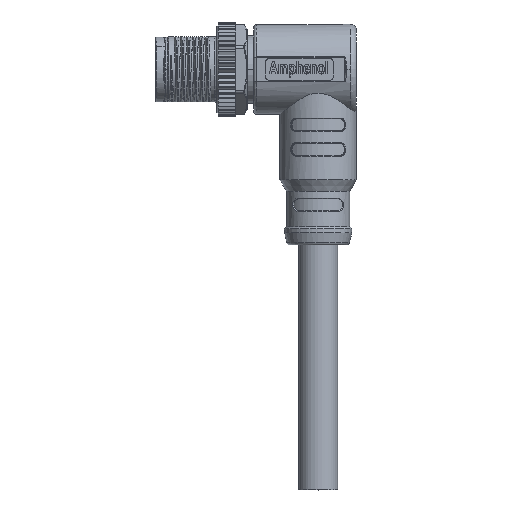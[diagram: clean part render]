
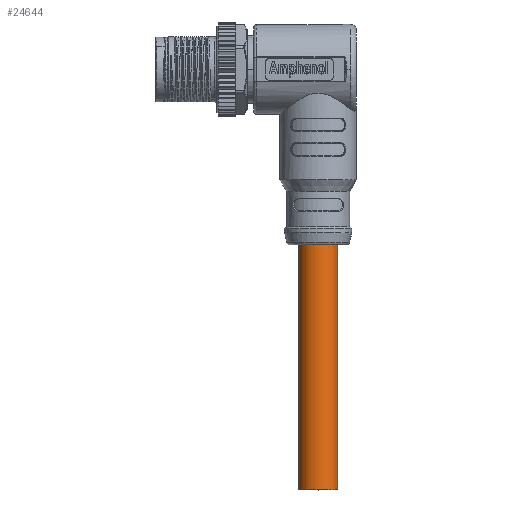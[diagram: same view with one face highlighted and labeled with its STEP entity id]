
A CAD part, top view. The second image highlights one B-rep face of the part: STEP entity #24644.
In plain terms, the highlighted cylindrical face has radius 3.2 mm (diameter 6.4 mm), a partial arc.
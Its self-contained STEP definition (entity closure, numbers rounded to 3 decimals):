
#6610=CARTESIAN_POINT('',(26.55,-28.65,0.));
#6611=DIRECTION('',(0.,1.,0.));
#6612=DIRECTION('',(-1.,0.,0.));
#6613=AXIS2_PLACEMENT_3D('',#6610,#6611,#6612);
#6615=DIRECTION('',(0.,1.,0.));
#6616=VECTOR('',#6615,40.);
#6617=CARTESIAN_POINT('',(29.75,-68.65,0.));
#6618=LINE('',#6617,#6616);
#6619=DIRECTION('',(0.,1.,0.));
#6620=VECTOR('',#6619,40.);
#6621=CARTESIAN_POINT('',(23.35,-68.65,0.));
#6622=LINE('',#6621,#6620);
#6628=CARTESIAN_POINT('',(26.55,-68.65,0.));
#6629=DIRECTION('',(0.,1.,0.));
#6630=DIRECTION('',(-1.,0.,0.));
#6631=AXIS2_PLACEMENT_3D('',#6628,#6629,#6630);
#18358=CARTESIAN_POINT('',(29.75,-68.65,0.));
#18359=CARTESIAN_POINT('',(23.35,-68.65,0.));
#18360=VERTEX_POINT('',#18358);
#18361=VERTEX_POINT('',#18359);
#18362=CARTESIAN_POINT('',(29.75,-28.65,0.));
#18363=CARTESIAN_POINT('',(23.35,-28.65,0.));
#18364=VERTEX_POINT('',#18362);
#18365=VERTEX_POINT('',#18363);
#24632=CARTESIAN_POINT('',(26.55,-68.65,0.));
#24633=DIRECTION('',(0.,1.,0.));
#24634=DIRECTION('',(1.,0.,0.));
#24635=AXIS2_PLACEMENT_3D('',#24632,#24633,#24634);
#24636=CYLINDRICAL_SURFACE('',#24635,3.2);
#24637=ORIENTED_EDGE('',*,*,#24605,.T.);
#24638=ORIENTED_EDGE('',*,*,#24627,.F.);
#24640=ORIENTED_EDGE('',*,*,#24639,.F.);
#24641=ORIENTED_EDGE('',*,*,#24623,.T.);
#24642=EDGE_LOOP('',(#24637,#24638,#24640,#24641));
#24643=FACE_OUTER_BOUND('',#24642,.F.);
#24644=ADVANCED_FACE('',(#24643),#24636,.T.);
#6614=CIRCLE('',#6613,3.2);
#6632=CIRCLE('',#6631,3.2);
#24605=EDGE_CURVE('',#18365,#18364,#6614,.T.);
#24623=EDGE_CURVE('',#18361,#18365,#6622,.T.);
#24627=EDGE_CURVE('',#18360,#18364,#6618,.T.);
#24639=EDGE_CURVE('',#18361,#18360,#6632,.T.);
